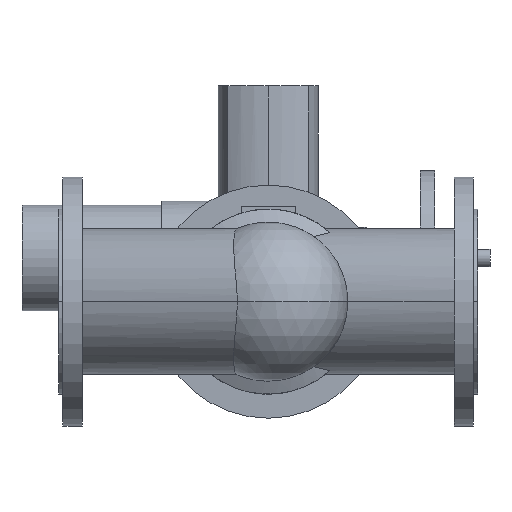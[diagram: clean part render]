
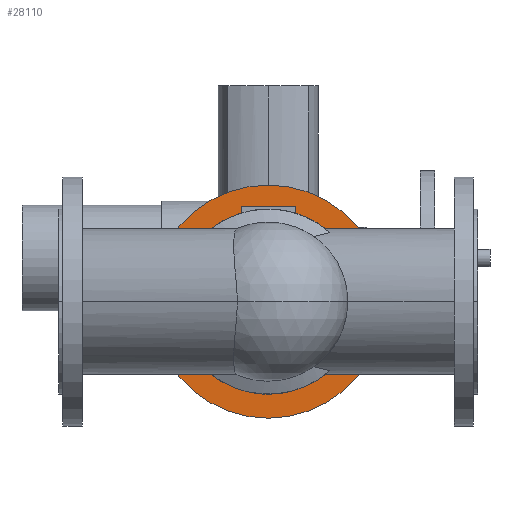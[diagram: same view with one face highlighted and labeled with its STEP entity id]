
A CAD part, front view. The second image highlights one B-rep face of the part: STEP entity #28110.
In plain terms, the highlighted planar face has unit normal (0, -1, 0).
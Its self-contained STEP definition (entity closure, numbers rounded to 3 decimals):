
#1320=CARTESIAN_POINT('',(373.5,143.2,0.));
#1330=VERTEX_POINT('',#1320);
#1380=CARTESIAN_POINT('',(240.,143.2,0.));
#1390=DIRECTION('',(0.,-1.,0.));
#1400=DIRECTION('',(-1.,0.,0.));
#1410=AXIS2_PLACEMENT_3D('',#1380,#1390,#1400);
#1420=CIRCLE('',#1410,133.5);
#1430=CARTESIAN_POINT('',(106.5,143.2,0.));
#1440=VERTEX_POINT('',#1430);
#1450=EDGE_CURVE('',#1330,#1440,#1420,.T.);
#1760=CARTESIAN_POINT('',(134.,143.2,0.));
#1770=VERTEX_POINT('',#1760);
#3310=CARTESIAN_POINT('',(346.,143.2,0.));
#3320=VERTEX_POINT('',#3310);
#3350=CARTESIAN_POINT('',(240.,143.2,0.));
#3360=DIRECTION('',(0.,-1.,0.));
#3370=DIRECTION('',(-1.,0.,0.));
#3380=AXIS2_PLACEMENT_3D('',#3350,#3360,#3370);
#3390=CIRCLE('',#3380,106.);
#3400=EDGE_CURVE('',#1770,#3320,#3390,.T.);
#27960=CARTESIAN_POINT('',(120.25,143.2,0.));
#27970=DIRECTION('',(0.,-1.,0.));
#27980=DIRECTION('',(-1.,0.,0.));
#27990=AXIS2_PLACEMENT_3D('',#27960,#27970,#27980);
#28000=PLANE('',#27990);
#28010=EDGE_CURVE('',#3320,#1770,#3390,.T.);
#28020=ORIENTED_EDGE('',*,*,#28010,.F.);
#28030=ORIENTED_EDGE('',*,*,#3400,.F.);
#28040=EDGE_LOOP('',(#28030,#28020));
#28050=FACE_BOUND('',#28040,.T.);
#28060=EDGE_CURVE('',#1440,#1330,#1420,.T.);
#28070=ORIENTED_EDGE('',*,*,#28060,.T.);
#28080=ORIENTED_EDGE('',*,*,#1450,.T.);
#28090=EDGE_LOOP('',(#28080,#28070));
#28100=FACE_OUTER_BOUND('',#28090,.T.);
#28110=ADVANCED_FACE('',(#28050,#28100),#28000,.T.);
